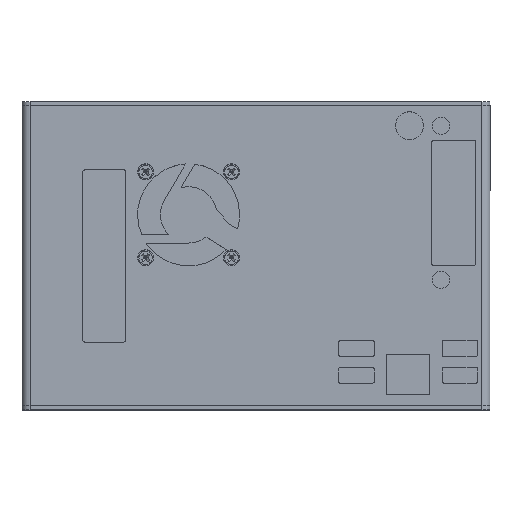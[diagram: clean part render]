
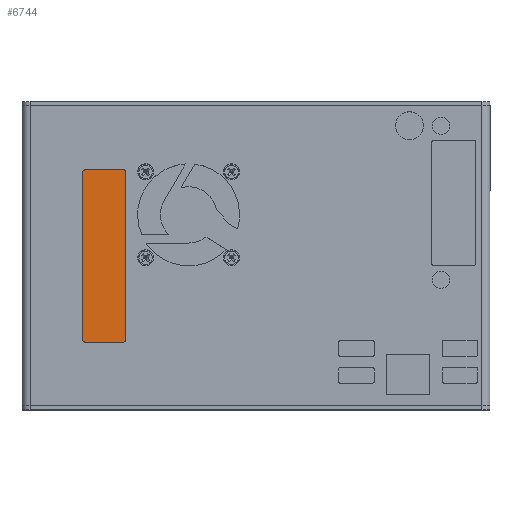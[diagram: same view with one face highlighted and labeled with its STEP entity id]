
A CAD part, top view. The second image highlights one B-rep face of the part: STEP entity #6744.
In plain terms, the highlighted planar face has unit normal (0, 0, 1) as drawn and (0, 1, 0) by its records, which use the part's own axes.
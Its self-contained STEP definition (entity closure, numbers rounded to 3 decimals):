
#449=PLANE('',#7397);
#725=FACE_OUTER_BOUND('',#1138,.T.);
#1138=EDGE_LOOP('',(#5321,#5322,#5323,#5324,#5325,#5326,#5327,#5328));
#1663=LINE('',#10570,#2259);
#1667=LINE('',#10582,#2263);
#1671=LINE('',#10594,#2267);
#1674=LINE('',#10603,#2270);
#2259=VECTOR('',#8672,10.);
#2263=VECTOR('',#8684,10.);
#2267=VECTOR('',#8696,10.);
#2270=VECTOR('',#8707,10.);
#2709=CIRCLE('',#7383,1.);
#2711=CIRCLE('',#7387,1.);
#2713=CIRCLE('',#7391,1.);
#2715=CIRCLE('',#7395,1.);
#3143=VERTEX_POINT('',#10560);
#3144=VERTEX_POINT('',#10562);
#3146=VERTEX_POINT('',#10568);
#3148=VERTEX_POINT('',#10574);
#3150=VERTEX_POINT('',#10580);
#3152=VERTEX_POINT('',#10586);
#3154=VERTEX_POINT('',#10592);
#3156=VERTEX_POINT('',#10598);
#3926=EDGE_CURVE('',#3143,#3144,#2709,.T.);
#3930=EDGE_CURVE('',#3146,#3143,#1663,.T.);
#3933=EDGE_CURVE('',#3148,#3146,#2711,.T.);
#3936=EDGE_CURVE('',#3150,#3148,#1667,.T.);
#3939=EDGE_CURVE('',#3152,#3150,#2713,.T.);
#3942=EDGE_CURVE('',#3154,#3152,#1671,.T.);
#3945=EDGE_CURVE('',#3156,#3154,#2715,.T.);
#3947=EDGE_CURVE('',#3144,#3156,#1674,.T.);
#5321=ORIENTED_EDGE('',*,*,#3947,.F.);
#5322=ORIENTED_EDGE('',*,*,#3926,.F.);
#5323=ORIENTED_EDGE('',*,*,#3930,.F.);
#5324=ORIENTED_EDGE('',*,*,#3933,.F.);
#5325=ORIENTED_EDGE('',*,*,#3936,.F.);
#5326=ORIENTED_EDGE('',*,*,#3939,.F.);
#5327=ORIENTED_EDGE('',*,*,#3942,.F.);
#5328=ORIENTED_EDGE('',*,*,#3945,.F.);
#6744=ADVANCED_FACE('',(#725),#449,.T.);
#7383=AXIS2_PLACEMENT_3D('',#10563,#8665,#8666);
#7387=AXIS2_PLACEMENT_3D('',#10576,#8678,#8679);
#7391=AXIS2_PLACEMENT_3D('',#10588,#8690,#8691);
#7395=AXIS2_PLACEMENT_3D('',#10600,#8702,#8703);
#7397=AXIS2_PLACEMENT_3D('',#10604,#8708,#8709);
#8665=DIRECTION('center_axis',(0.,-1.,0.));
#8666=DIRECTION('ref_axis',(0.,0.,-1.));
#8672=DIRECTION('',(0.,0.,-1.));
#8678=DIRECTION('center_axis',(0.,-1.,0.));
#8679=DIRECTION('ref_axis',(-1.,0.,0.));
#8684=DIRECTION('',(-1.,0.,0.));
#8690=DIRECTION('center_axis',(0.,-1.,0.));
#8691=DIRECTION('ref_axis',(0.,0.,1.));
#8696=DIRECTION('',(0.,0.,1.));
#8702=DIRECTION('center_axis',(0.,-1.,0.));
#8703=DIRECTION('ref_axis',(1.,0.,0.));
#8707=DIRECTION('',(1.,0.,0.));
#8708=DIRECTION('center_axis',(0.,1.,0.));
#8709=DIRECTION('ref_axis',(0.,0.,1.));
#10560=CARTESIAN_POINT('',(-64.7,18.,-31.1));
#10562=CARTESIAN_POINT('',(-63.7,18.,-32.1));
#10563=CARTESIAN_POINT('Origin',(-63.7,18.,-31.1));
#10568=CARTESIAN_POINT('',(-64.7,18.,31.1));
#10570=CARTESIAN_POINT('',(-64.7,18.,-31.1));
#10574=CARTESIAN_POINT('',(-63.7,18.,32.1));
#10576=CARTESIAN_POINT('Origin',(-63.7,18.,31.1));
#10580=CARTESIAN_POINT('',(-49.5,18.,32.1));
#10582=CARTESIAN_POINT('',(-63.7,18.,32.1));
#10586=CARTESIAN_POINT('',(-48.5,18.,31.1));
#10588=CARTESIAN_POINT('Origin',(-49.5,18.,31.1));
#10592=CARTESIAN_POINT('',(-48.5,18.,-31.1));
#10594=CARTESIAN_POINT('',(-48.5,18.,31.1));
#10598=CARTESIAN_POINT('',(-49.5,18.,-32.1));
#10600=CARTESIAN_POINT('Origin',(-49.5,18.,-31.1));
#10603=CARTESIAN_POINT('',(-49.5,18.,-32.1));
#10604=CARTESIAN_POINT('Origin',(-56.6,18.,0.));
